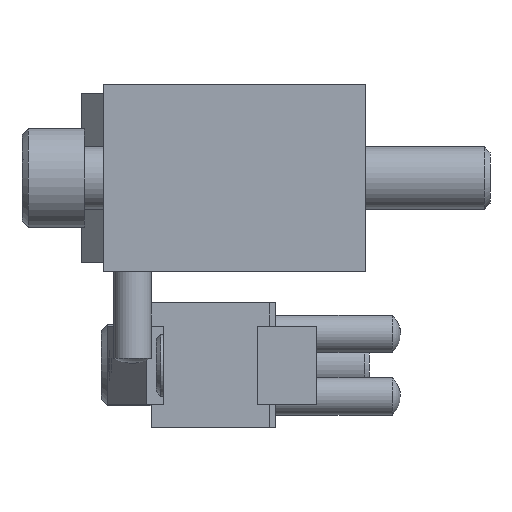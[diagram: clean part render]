
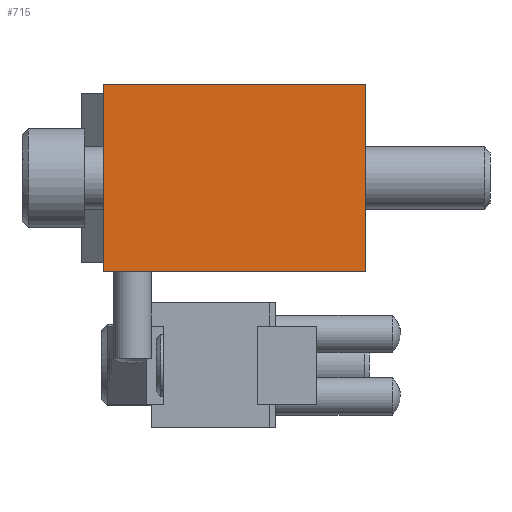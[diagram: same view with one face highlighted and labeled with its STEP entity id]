
A CAD part, left-side view. The second image highlights one B-rep face of the part: STEP entity #715.
In plain terms, the highlighted planar face has unit normal (-1, 0, 0).
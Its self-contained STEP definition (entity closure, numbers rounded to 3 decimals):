
#715 = ADVANCED_FACE( '', ( #1340 ), #1341, .F. );
#1340 = FACE_OUTER_BOUND( '', #2027, .T. );
#1341 = PLANE( '', #2028 );
#2027 = EDGE_LOOP( '', ( #3071, #3072, #3073, #3074 ) );
#2028 = AXIS2_PLACEMENT_3D( '', #3075, #3076, #3077 );
#3071 = ORIENTED_EDGE( '', *, *, #3943, .T. );
#3072 = ORIENTED_EDGE( '', *, *, #4230, .F. );
#3073 = ORIENTED_EDGE( '', *, *, #4231, .F. );
#3074 = ORIENTED_EDGE( '', *, *, #3967, .T. );
#3075 = CARTESIAN_POINT( '', ( 0., 42., -15. ) );
#3076 = DIRECTION( '', ( 1., 0., 0. ) );
#3077 = DIRECTION( '', ( 0., 0., -1. ) );
#3943 = EDGE_CURVE( '', #4547, #4548, #4549, .T. );
#3967 = EDGE_CURVE( '', #4588, #4547, #4589, .T. );
#4230 = EDGE_CURVE( '', #4998, #4548, #4999, .T. );
#4231 = EDGE_CURVE( '', #4588, #4998, #5000, .T. );
#4547 = VERTEX_POINT( '', #5452 );
#4548 = VERTEX_POINT( '', #5453 );
#4549 = LINE( '', #5454, #5455 );
#4588 = VERTEX_POINT( '', #5507 );
#4589 = LINE( '', #5508, #5509 );
#4998 = VERTEX_POINT( '', #6070 );
#4999 = LINE( '', #6071, #6072 );
#5000 = LINE( '', #6073, #6074 );
#5452 = CARTESIAN_POINT( '', ( 0., 0., -15. ) );
#5453 = CARTESIAN_POINT( '', ( 0., 0., 15. ) );
#5454 = CARTESIAN_POINT( '', ( 0., 0., -15. ) );
#5455 = VECTOR( '', #6499, 1000. );
#5507 = CARTESIAN_POINT( '', ( 0., 42., -15. ) );
#5508 = CARTESIAN_POINT( '', ( 0., 42., -15. ) );
#5509 = VECTOR( '', #6525, 1000. );
#6070 = CARTESIAN_POINT( '', ( 0., 42., 15. ) );
#6071 = CARTESIAN_POINT( '', ( 0., 42., 15. ) );
#6072 = VECTOR( '', #6808, 1000. );
#6073 = CARTESIAN_POINT( '', ( 0., 42., -15. ) );
#6074 = VECTOR( '', #6809, 1000. );
#6499 = DIRECTION( '', ( 0., 0., 1. ) );
#6525 = DIRECTION( '', ( 0., -1., 0. ) );
#6808 = DIRECTION( '', ( 0., -1., 0. ) );
#6809 = DIRECTION( '', ( 0., 0., 1. ) );
